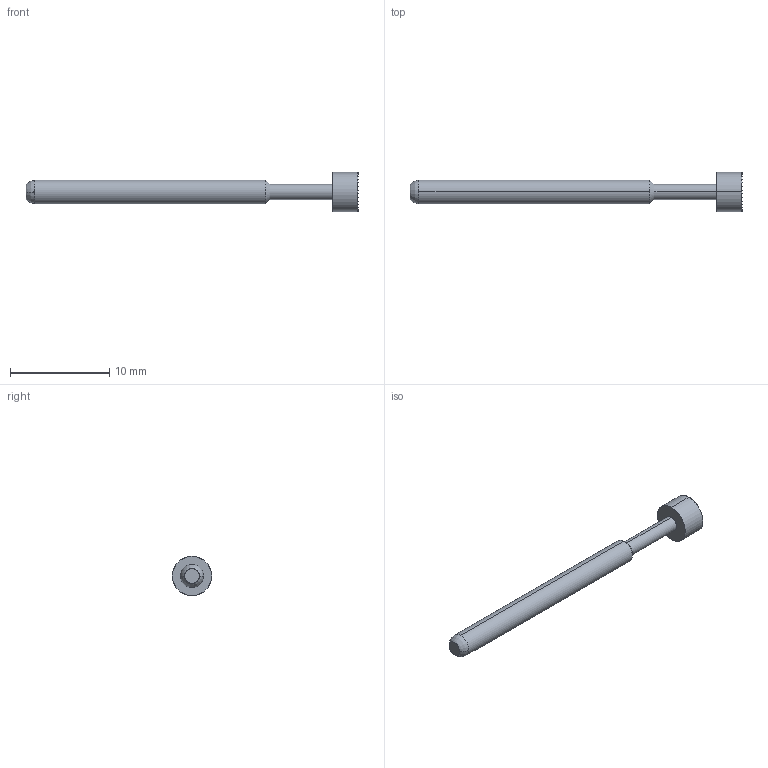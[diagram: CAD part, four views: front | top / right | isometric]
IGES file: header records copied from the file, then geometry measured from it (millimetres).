
Start section: SolidWorks IGES file using analytic representation for surfaces
Global section: file name: Z:\probe solid model mockups\Solidworks models\IGES Files\EPA-4 IGES files\EPA-4F.IGS; native system: SolidWorks 2006 by SolidWorks Corporation; preprocessor: SolidWorks 2006 by SolidWorks Corporation; author: tsakatani; date: 080103.104336; units: inch
Bounding box: 33.53 x 3.96 x 3.96 mm (x, y, z)
Surface area: 270 mm2 (no closed solid volume)
Topology: 0 solids, 0 shells, 13 faces, 140 edges, 140 vertices
Faces by surface type: revolution 10, bspline 3
